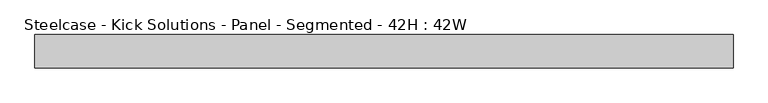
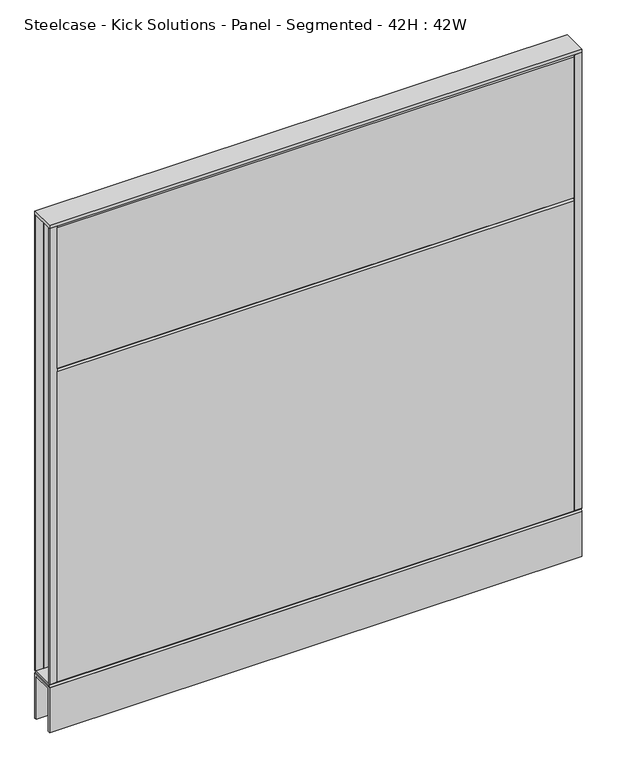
"""IFC4 building model written with IfcOpenShell, lengths in millimetres: furniture geometry, Steelcase - Kick Solutions - Panel - Segmented - 42H : 42W."""

import ifcopenshell
import ifcopenshell.guid

model = None  # the IFC model being written
_history = None  # IfcOwnerHistory: only IFC2X3 demands one
_inside = {}  # id of a spatial element -> (the spatial element, [elements in it])
_under = {}  # id of a project, library or spatial element -> (it, [spatial elements below it])
_declared = {}  # id of a project -> (the project, [libraries it declares])
_typed = {}  # id of a type object -> (the type object, [elements of that type])
_made_of = {}  # id of a material, layer set ... -> (it, [elements and type objects made of it])


def new_model(schema):
    """Start an empty IFC model of exactly this schema.

    Asked for "IFC4X3", IfcOpenShell would pick the latest addendum, in which some entities
    have other attributes; the version numbers below select the first issue.
    IFC2X3 requires an IfcOwnerHistory on every rooted entity: one is made here for all.
    """
    global model, _history
    if schema == "IFC4X3":
        model = ifcopenshell.file(schema_version=(4, 3, 0, 0))
    else:
        model = ifcopenshell.file(schema=schema)
    _inside.clear()
    _under.clear()
    _declared.clear()
    _typed.clear()
    _made_of.clear()
    _history = None
    if model.schema == "IFC2X3":
        org = make("IfcOrganization", Name="unknown")
        user = make(
            "IfcPersonAndOrganization",
            ThePerson=make("IfcPerson", FamilyName="unknown"),
            TheOrganization=org,
        )
        app = make(
            "IfcApplication",
            ApplicationDeveloper=org,
            Version="unknown",
            ApplicationFullName="unknown",
            ApplicationIdentifier="unknown",
        )
        _history = make(
            "IfcOwnerHistory",
            OwningUser=user,
            OwningApplication=app,
            ChangeAction="ADDED",
            CreationDate=0,
        )
    return model


def make(cls, **values):
    """One entity of the class cls with the attributes given. An attribute that is None is left unset."""
    return model.create_entity(
        cls, **{name: value for name, value in values.items() if value is not None}
    )


def rooted(cls, **values):
    """An entity with a GlobalId (a new one), such as an element, a storey or a relation."""
    return make(cls, GlobalId=ifcopenshell.guid.new(), OwnerHistory=_history, **values)


def si_unit(unit_type, name, prefix=None):
    """IfcSIUnit, for example si_unit("LENGTHUNIT", "METRE", prefix="MILLI")."""
    return make("IfcSIUnit", UnitType=unit_type, Prefix=prefix, Name=name)


def assignment(units):
    """IfcUnitAssignment: the units of a project."""
    return None if units is None else make("IfcUnitAssignment", Units=units)


def point(xyz):
    """IfcCartesianPoint."""
    return None if xyz is None else make("IfcCartesianPoint", Coordinates=xyz)


def direction(xyz):
    """IfcDirection."""
    return None if xyz is None else make("IfcDirection", DirectionRatios=xyz)


def frame(location, z_axis=None, x_axis=None):
    """IfcAxis2Placement3D, a coordinate frame: its origin and axes. An axis left out is left unset."""
    return make(
        "IfcAxis2Placement3D",
        Location=point(location),
        Axis=direction(z_axis),
        RefDirection=direction(x_axis),
    )


def origin():
    """The frame at (0, 0, 0) with its axes left unset."""
    return frame((0.0, 0.0, 0.0))


def place(relative_to, where):
    """IfcLocalPlacement: puts the frame where relative to a parent placement (None: the world)."""
    return make(
        "IfcLocalPlacement", PlacementRelTo=relative_to, RelativePlacement=where
    )


def context(
    kind, dimensions, precision=None, world=None, true_north=None, identifier=None
):
    """IfcGeometricRepresentationContext, for example the 3D "Model" context."""
    return make(
        "IfcGeometricRepresentationContext",
        ContextIdentifier=identifier,
        ContextType=kind,
        CoordinateSpaceDimension=dimensions,
        Precision=precision,
        WorldCoordinateSystem=world,
        TrueNorth=true_north,
    )


def project(units=None, contexts=None):
    """IfcProject with its units and contexts."""
    return rooted(
        "IfcProject",
        Name="project",
        RepresentationContexts=contexts,
        UnitsInContext=assignment(units),
    )


def spatial(cls, under=None, at=None, **own):
    """A site, building, storey or space (cls), placed at a placement, below another one or the project."""
    s = rooted(cls, ObjectPlacement=at, **own)
    if under is not None:
        _under.setdefault(under.id(), (under, []))[1].append(s)
    return s


def polyline(points):
    """IfcPolyline through the points."""
    return make("IfcPolyline", Points=[point(p) for p in points])


def outline(outer, holes=None, kind="AREA"):
    """IfcArbitraryClosedProfileDef: a profile drawn as a closed curve; with holes, ...WithVoids."""
    if holes is None:
        return make("IfcArbitraryClosedProfileDef", ProfileType=kind, OuterCurve=outer)
    return make(
        "IfcArbitraryProfileDefWithVoids",
        ProfileType=kind,
        OuterCurve=outer,
        InnerCurves=holes,
    )


def extrude(swept, where, along, depth):
    """IfcExtrudedAreaSolid: the profile swept, set in the frame where, extruded along a direction by depth."""
    return make(
        "IfcExtrudedAreaSolid",
        SweptArea=swept,
        Position=where,
        ExtrudedDirection=direction(along),
        Depth=depth,
    )


def shape(context_of_items, identifier, shape_type, items):
    """IfcShapeRepresentation: the items that make up one representation, for example the "Body"."""
    return make(
        "IfcShapeRepresentation",
        ContextOfItems=context_of_items,
        RepresentationIdentifier=identifier,
        RepresentationType=shape_type,
        Items=items,
    )


def source(mapping_origin, context_of_items, identifier, shape_type, items):
    """IfcRepresentationMap: a shape defined once, which mapped items show again and again."""
    return make(
        "IfcRepresentationMap",
        MappingOrigin=mapping_origin,
        MappedRepresentation=shape(context_of_items, identifier, shape_type, items),
    )


def transform(
    local_origin,
    x_axis=None,
    y_axis=None,
    z_axis=None,
    scale=None,
    scale2=None,
    scale3=None,
    uniform=True,
):
    """IfcCartesianTransformationOperator3D, or its non-uniform kind. x_axis, y_axis, z_axis: its Axis1, 2, 3."""
    if uniform:
        return make(
            "IfcCartesianTransformationOperator3D",
            Axis1=direction(x_axis),
            Axis2=direction(y_axis),
            LocalOrigin=point(local_origin),
            Scale=scale,
            Axis3=direction(z_axis),
        )
    return make(
        "IfcCartesianTransformationOperator3DnonUniform",
        Axis1=direction(x_axis),
        Axis2=direction(y_axis),
        LocalOrigin=point(local_origin),
        Scale=scale,
        Axis3=direction(z_axis),
        Scale2=scale2,
        Scale3=scale3,
    )


def mapped(mapping_source, mapping_target):
    """IfcMappedItem: shows the shape of a source again, moved by a transform."""
    return make(
        "IfcMappedItem", MappingSource=mapping_source, MappingTarget=mapping_target
    )


def made_of(thing, what):
    """Note that an element or type object is made of a material, layer set ...; save() writes the relation."""
    if what is not None:
        _made_of.setdefault(what.id(), (what, []))[1].append(thing)
    return thing


def element(
    cls,
    number,
    at=None,
    inside=None,
    cuts=None,
    type_object=None,
    material=None,
    context=None,
    identifier="Body",
    shape_type=None,
    held_by="IfcProductDefinitionShape",
    body=None,
    shapes=None,
    **own,
):
    """One element of the class cls, such as IfcWall. Its Tag is "e" and its number.

    at: its placement. inside: the storey or other place that contains it. cuts: it is an
    opening in that element (IfcRelVoidsElement). A single representation is given by context,
    identifier, shape_type and body (its items); several are given by shapes. held_by: the class
    of the entity that holds the representations. save() writes the other relations.
    """
    e = rooted(cls, Tag="e%d" % number, ObjectPlacement=at, **own)
    if body is not None:
        shapes = [shape(context, identifier, shape_type, body)]
    if shapes is not None:
        e.Representation = make(held_by, Representations=shapes)
    if inside is not None:
        _inside.setdefault(inside.id(), (inside, []))[1].append(e)
    if cuts is not None:
        rooted(
            "IfcRelVoidsElement", RelatingBuildingElement=cuts, RelatedOpeningElement=e
        )
    if type_object is not None:
        _typed.setdefault(type_object.id(), (type_object, []))[1].append(e)
    return made_of(e, material)


def aggregate(whole, parts):
    """IfcRelAggregates: a whole, such as a stair, and the parts it consists of."""
    return rooted("IfcRelAggregates", RelatingObject=whole, RelatedObjects=parts)


def save(model, path):
    """Write the relations noted so far, then the file.

    IfcRelAggregates (storeys below a building ...), IfcRelContainedInSpatialStructure (elements
    in a storey), IfcRelDefinesByType, IfcRelAssociatesMaterial and IfcRelDeclares: one each for
    every whole, place, type object, material and project.
    """
    for whole, parts in _under.values():
        aggregate(whole, parts)
    for where, things in _inside.values():
        rooted(
            "IfcRelContainedInSpatialStructure",
            RelatedElements=things,
            RelatingStructure=where,
        )
    for kind, things in _typed.values():
        rooted("IfcRelDefinesByType", RelatedObjects=things, RelatingType=kind)
    for what, things in _made_of.values():
        rooted("IfcRelAssociatesMaterial", RelatedObjects=things, RelatingMaterial=what)
    for by, libraries in _declared.values():
        rooted("IfcRelDeclares", RelatingContext=by, RelatedDefinitions=libraries)
    model.write(path)


def steelcase_kick_solutions_panel_segmented_42h_42w_9d25cbb9(model_context):
    return source(origin(), model_context, "Body", "SweptSolid", [
        extrude(outline(polyline([(1.5e-06, 101.600003), (-3.175, 101.600003), (-3.175, 1066.8), (1.5e-06, 1063.7188448), (1.5e-06, 101.600003)])), frame((15.8749996, 0.0, 0.0), z_axis=(1.0, 0.0, 0.0), x_axis=(0.0, 1.0, 0.0)), (0.0, 0.0, 1.0), 1035.0500008),
        extrude(outline(polyline([(-50.8000015, 765.0811552), (-50.8000015, 1063.7188448), (-47.625, 1066.8), (-47.625, 762.0), (-50.8000015, 765.0811552)])), frame((15.8749996, 0.0, 0.0), z_axis=(1.0, 0.0, 0.0), x_axis=(0.0, 1.0, 0.0)), (0.0, 0.0, 1.0), 1035.0500008),
        extrude(outline(polyline([(-50.8000015, 101.600003), (-50.8000015, 758.9188448), (-47.625, 762.0), (-47.625, 101.600003), (-50.8000015, 101.600003)])), frame((15.8749996, 0.0, 0.0), z_axis=(1.0, 0.0, 0.0), x_axis=(0.0, 1.0, 0.0)), (0.0, 0.0, 1.0), 1035.0500008),
        extrude(outline(polyline([(1066.8, -3.1750015), (1050.9250004, -3.1750015), (1050.9250004, 0.0), (1066.8, 0.0), (1066.8, -3.1750015)])), frame((0.0, 0.0, 101.7169049), z_axis=(0.0, 0.0, 1.0), x_axis=(1.0, 0.0, 0.0)), (0.0, 0.0, 1.0), 965.199997),
        extrude(outline(polyline([(15.8749996, -50.8000015), (0.0, -50.8000015), (0.0, -47.625), (15.8749996, -47.625), (15.8749996, -50.8000015)])), frame((0.0, 0.0, 101.7169049), z_axis=(0.0, 0.0, 1.0), x_axis=(1.0, 0.0, 0.0)), (0.0, 0.0, 1.0), 965.199997),
        extrude(outline(polyline([(-50.7995075, 101.7169049), (-0.000494, 101.7169049), (-3.0583512, 98.5421458), (-47.7416503, 98.5421458), (-50.7995075, 101.7169049)])), frame((0.0, 0.0, 0.0), z_axis=(1.0, 0.0, 0.0), x_axis=(0.0, 1.0, 0.0)), (0.0, 0.0, 1.0), 1066.8),
        extrude(outline(polyline([(1066.8, 0.0), (1066.8, -50.8000015), (0.0, -50.8000015), (0.0, 0.0), (1066.8, 0.0)])), frame((0.0, 0.0, 1066.9169018), z_axis=(0.0, 0.0, 1.0), x_axis=(1.0, 0.0, 0.0)), (0.0, 0.0, 1.0), 6.35),
        extrude(outline(polyline([(15.8749996, -3.1750015), (0.0, -3.1750015), (0.0, 0.0), (15.8749996, 0.0), (15.8749996, -3.1750015)])), frame((0.0, 0.0, 101.7169049), z_axis=(0.0, 0.0, 1.0), x_axis=(1.0, 0.0, 0.0)), (0.0, 0.0, 1.0), 965.199997),
        extrude(outline(polyline([(1066.8, -50.8000015), (1050.9250004, -50.8000015), (1050.9250004, -47.625), (1066.8, -47.625), (1066.8, -50.8000015)])), frame((0.0, 0.0, 101.7169049), z_axis=(0.0, 0.0, 1.0), x_axis=(1.0, 0.0, 0.0)), (0.0, 0.0, 1.0), 965.199997),
        extrude(outline(polyline([(-50.8000015, 95.3668927), (-47.6247484, 98.5421458), (-3.1752531, 98.5421458), (0.0, 95.3668927), (-50.8000015, 95.3668927)])), frame((0.0, 0.0, 0.0), z_axis=(1.0, 0.0, 0.0), x_axis=(0.0, 1.0, 0.0)), (0.0, 0.0, 1.0), 1066.8),
        extrude(outline(polyline([(0.0, 0.0), (-5.08, 0.0), (-5.08, 90.2869018), (-45.7200015, 90.2869018), (-45.7200015, 0.0), (-50.8000015, 0.0), (-50.8000015, 95.3669018), (0.0, 95.3669018), (0.0, 0.0)])), frame((0.0, 0.0, 0.0), z_axis=(1.0, 0.0, 0.0), x_axis=(0.0, 1.0, 0.0)), (0.0, 0.0, 1.0), 1066.8),
    ])


if __name__ == "__main__":
    model = new_model("IFC4")
    model_context = context("Model", 3, world=origin())
    ifc_project = project(units=[si_unit("LENGTHUNIT", "METRE", prefix="MILLI")], contexts=[model_context])
    site = spatial("IfcSite", under=ifc_project)
    building = spatial("IfcBuilding", under=site)
    placement = place(None, origin())
    steelcase_kick_solutions_panel_segmented_42h_42w_shape = steelcase_kick_solutions_panel_segmented_42h_42w_9d25cbb9(model_context)
    element("IfcFurniture", 1, ObjectType="Steelcase - Kick Solutions - Panel - Segmented - 42H : 42W", at=placement, inside=building, context=model_context, shape_type="MappedRepresentation", body=[
        mapped(steelcase_kick_solutions_panel_segmented_42h_42w_shape, transform((0.0, 0.0, 0.0), x_axis=(1.0, 0.0, 0.0), y_axis=(0.0, 1.0, 0.0), z_axis=(0.0, 0.0, 1.0))),
    ])
    save(model, "model.ifc")
